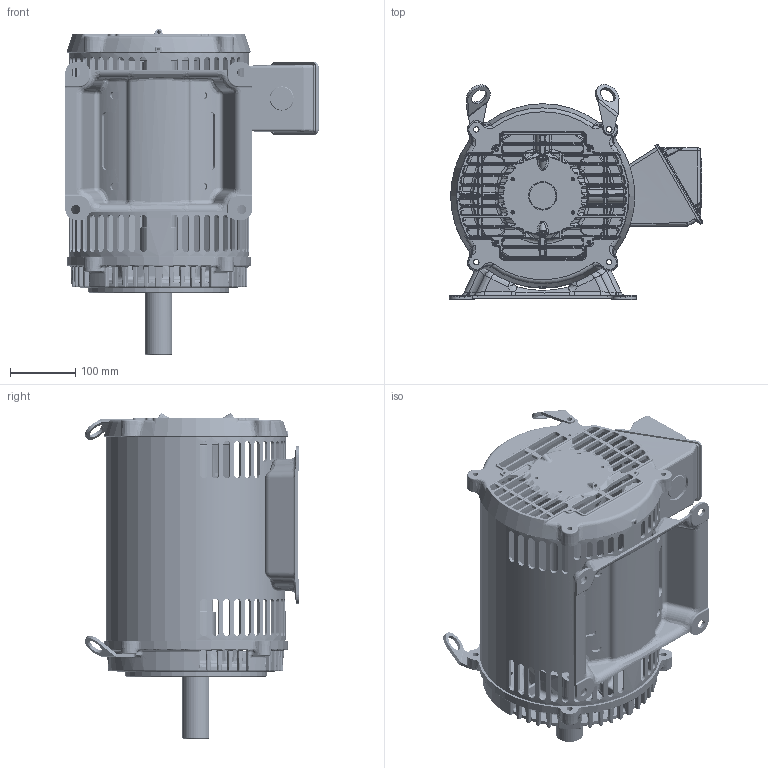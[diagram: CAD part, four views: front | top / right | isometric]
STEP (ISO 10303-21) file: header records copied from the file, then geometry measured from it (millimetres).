
FILE_DESCRIPTION((''),'2;1');
FILE_NAME('250_ODP_CFACE_ASM_ASM','2018-10-10T07:42:01',('emd2341'),('Nidec Motor Corporation'),'CREO PARAMETRIC BY PTC INC, 2018020','CREO PARAMETRIC BY PTC INC, 2018020','');
FILE_SCHEMA(('CONFIG_CONTROL_DESIGN'));
Length unit declared in the file: inch
Products named in the file (12): 2046004_AF2; 2035295-BKT_AF0; 2033996-005_AF0; 2028415_ASM; 2046094; 0183520; 2075291; 0369733; 0380742; 0364229; 0364236; 250_ODP_CFACE_ASM_ASM
Assembly tree (12 placements, depth 3):
  250_ODP_CFACE_ASM_ASM
    2046004_AF2
    2028415_ASM
      2035295-BKT_AF0
      2033996-005_AF0
    2046094
    0183520
    2075291
    0369733  x2
    0380742
    0364229
    0364236
Bounding box: 387.49 x 328.54 x 498.38 mm (x, y, z)
Volume: 4208814.7 mm3; surface area: 1426568.3 mm2
Topology: 13 solids, 19 shells, 4124 faces, 10197 edges, 6076 vertices
Faces by surface type: bspline 1476, cylinder 1049, plane 769, torus 385, cone 342, sphere 95, extrusion 8
Entity records: 203879 total; most frequent: CARTESIAN_POINT 117048, ORIENTED_EDGE 20240, DIRECTION 15153, EDGE_CURVE 10132, AXIS2_PLACEMENT_3D 6056, VERTEX_POINT 6052, EDGE_LOOP 4408, FACE_OUTER_BOUND 4106
